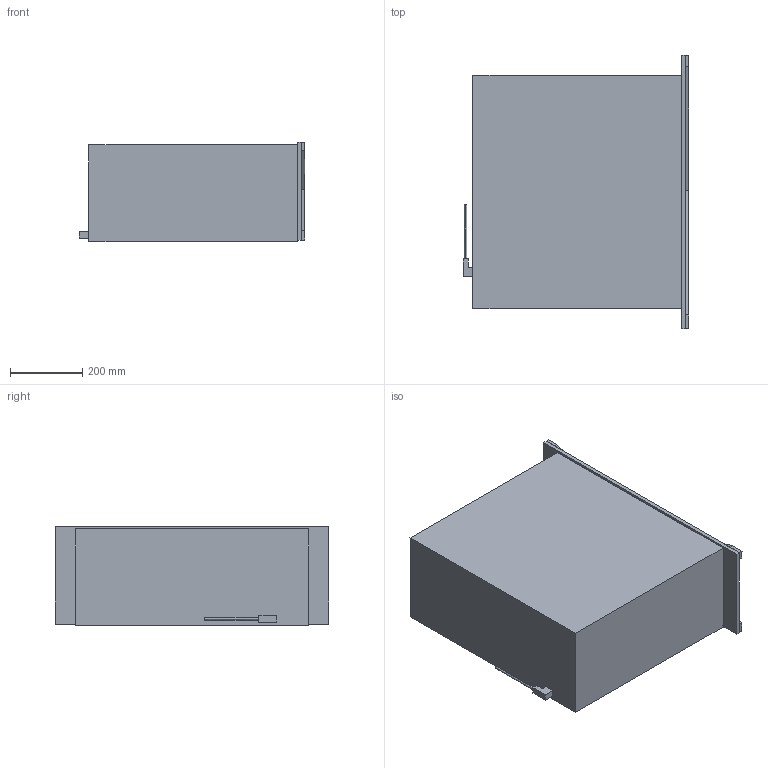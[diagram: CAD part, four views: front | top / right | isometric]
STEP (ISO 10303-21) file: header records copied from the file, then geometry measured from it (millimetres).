
FILE_DESCRIPTION(/* description */ (''),/* implementation_level */ '2;1');
FILE_NAME(/* name */ 'ESW6380_NC',/* time_stamp */ '2013-10-31T10:49:41+01:00',/* author */ (''),/* organization */ (''),/* preprocessor_version */ 'ST-DEVELOPER v10',/* originating_system */ '',/* authorisation */ '');
FILE_SCHEMA (('AUTOMOTIVE_DESIGN_CC2'));
Length unit declared in the file: millimetre
Products named in the file (1): 1
Bounding box: 625.38 x 757 x 275.01 mm (x, y, z)
Volume: 103025990.6 mm3; surface area: 1976893.6 mm2
Topology: 5 solids, 5 shells, 44 faces, 104 edges, 66 vertices
Faces by surface type: bspline 44
Entity records: 1415 total; most frequent: CARTESIAN_POINT 703, ORIENTED_EDGE 200, EDGE_CURVE 100, B_SPLINE_CURVE_WITH_KNOTS 100, VERTEX_POINT 66, ADVANCED_FACE 44, FACE_OUTER_BOUND 44, EDGE_LOOP 44
